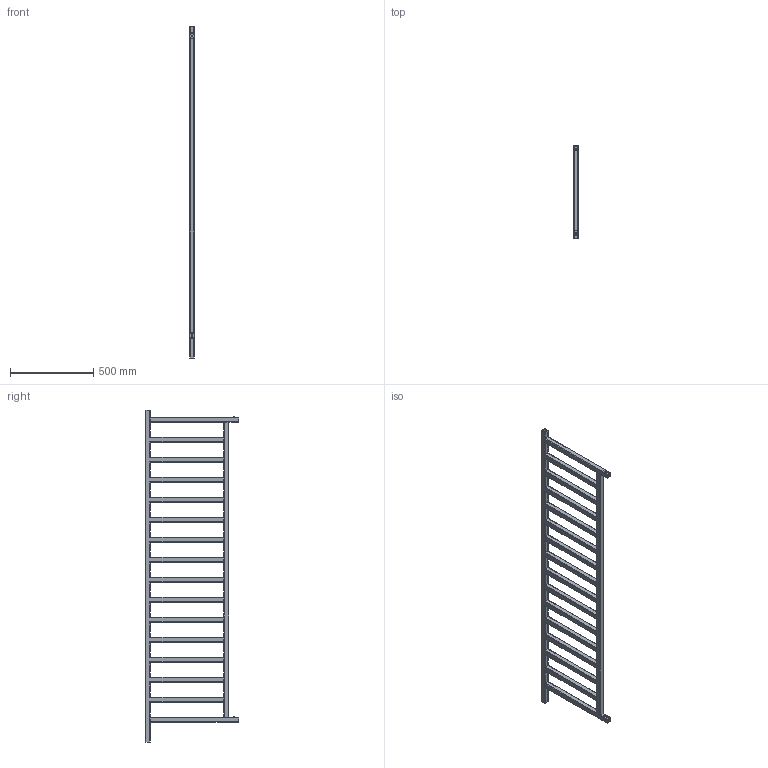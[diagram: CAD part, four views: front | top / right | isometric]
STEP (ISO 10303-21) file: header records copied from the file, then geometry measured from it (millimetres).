
FILE_DESCRIPTION((''),'2;1');
FILE_NAME('Z:\R\G\P\RGP035 - Grzejnik Simple\Work\Inventor\Marketing\AutoCad 3D\SIM-SD-1920-500-15.stp','2012-07-12T14:53:30',('KurKa'),(''),'Autodesk Inventor 2012','Autodesk Inventor 2012','');
FILE_SCHEMA(('AUTOMOTIVE_DESIGN { 1 0 10303 214 1 1 1 1 }'));
Length unit declared in the file: millimetre
Products named in the file (3): SIM-SD-1920-500-15; konsola MMT-SD-30x30x1,5-00 v1
Assembly tree (3 placements, depth 2):
  SIM-SD-1920-500-15
    SIM-SD-1920-500-15
    konsola MMT-SD-30x30x1,5-00 v1  x2
Bounding box: 30 x 560 x 1993.5 mm (x, y, z)
Volume: 9769560 mm3; surface area: 1260487.2 mm2
Topology: 5 solids, 5 shells, 314 faces, 768 edges, 442 vertices
Faces by surface type: plane 168, cylinder 136, bspline 4, torus 4, cone 2
Full cylindrical faces by diameter (mm): 4 x2, 4.134 x2, 10 x2, 18.631 x2
Entity records: 8372 total; most frequent: CARTESIAN_POINT 1576, DIRECTION 1458, ORIENTED_EDGE 1370, EDGE_CURVE 685, AXIS2_PLACEMENT_3D 493, VECTOR 472, LINE 472, VERTEX_POINT 391
